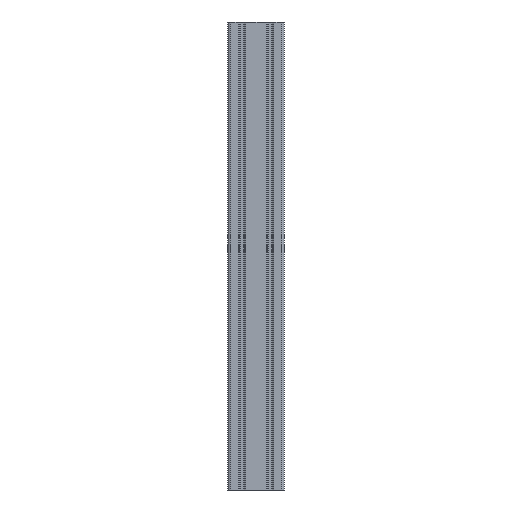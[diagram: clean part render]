
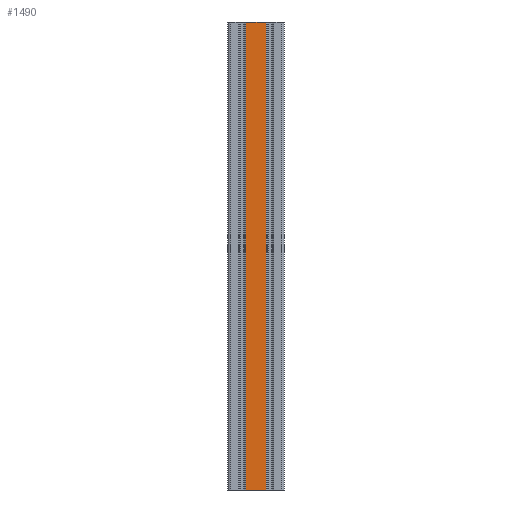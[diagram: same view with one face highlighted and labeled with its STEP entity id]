
A CAD part, front view. The second image highlights one B-rep face of the part: STEP entity #1490.
In plain terms, the highlighted planar face has unit normal (0, -1, 0).
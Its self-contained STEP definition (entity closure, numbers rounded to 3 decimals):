
#346 = VERTEX_POINT ( 'NONE', #5575 ) ;
#375 = VERTEX_POINT ( 'NONE', #5067 ) ;
#417 = ORIENTED_EDGE ( 'NONE', *, *, #4424, .F. ) ;
#420 = LINE ( 'NONE', #2090, #5658 ) ;
#614 = DIRECTION ( 'NONE',  ( 0., 0., 1. ) ) ;
#623 = CARTESIAN_POINT ( 'NONE',  ( 10.9, -30., -250. ) ) ;
#836 = ORIENTED_EDGE ( 'NONE', *, *, #5829, .T. ) ;
#1132 = VECTOR ( 'NONE', #4162, 1000. ) ;
#1387 = LINE ( 'NONE', #4474, #6226 ) ;
#1416 = VERTEX_POINT ( 'NONE', #5315 ) ;
#1490 = ADVANCED_FACE ( 'NONE', ( #3061 ), #3771, .T. ) ;
#2069 = LINE ( 'NONE', #3411, #5967 ) ;
#2090 = CARTESIAN_POINT ( 'NONE',  ( -10.9, -30., -250. ) ) ;
#2421 = EDGE_LOOP ( 'NONE', ( #4456, #836, #6509, #417 ) ) ;
#3061 = FACE_OUTER_BOUND ( 'NONE', #2421, .T. ) ;
#3120 = EDGE_CURVE ( 'NONE', #346, #375, #1387, .T. ) ;
#3184 = LINE ( 'NONE', #4136, #1132 ) ;
#3402 = DIRECTION ( 'NONE',  ( 0., -1., 0. ) ) ;
#3411 = CARTESIAN_POINT ( 'NONE',  ( 10.9, -30., -250. ) ) ;
#3771 = PLANE ( 'NONE',  #5082 ) ;
#3895 = DIRECTION ( 'NONE',  ( 1., 0., 0. ) ) ;
#4136 = CARTESIAN_POINT ( 'NONE',  ( -30., -30., -250. ) ) ;
#4162 = DIRECTION ( 'NONE',  ( -1., 0., 0. ) ) ;
#4267 = VERTEX_POINT ( 'NONE', #623 ) ;
#4424 = EDGE_CURVE ( 'NONE', #1416, #346, #420, .T. ) ;
#4426 = DIRECTION ( 'NONE',  ( 1., 0., 0. ) ) ;
#4451 = EDGE_CURVE ( 'NONE', #4267, #1416, #3184, .T. ) ;
#4456 = ORIENTED_EDGE ( 'NONE', *, *, #4451, .F. ) ;
#4474 = CARTESIAN_POINT ( 'NONE',  ( -30., -30., 250. ) ) ;
#5067 = CARTESIAN_POINT ( 'NONE',  ( 10.9, -30., 250. ) ) ;
#5082 = AXIS2_PLACEMENT_3D ( 'NONE', #5857, #3402, #3895 ) ;
#5315 = CARTESIAN_POINT ( 'NONE',  ( -10.9, -30., -250. ) ) ;
#5575 = CARTESIAN_POINT ( 'NONE',  ( -10.9, -30., 250. ) ) ;
#5658 = VECTOR ( 'NONE', #614, 1000. ) ;
#5829 = EDGE_CURVE ( 'NONE', #4267, #375, #2069, .T. ) ;
#5857 = CARTESIAN_POINT ( 'NONE',  ( -30., -30., -334.853 ) ) ;
#5866 = DIRECTION ( 'NONE',  ( 0., 0., 1. ) ) ;
#5967 = VECTOR ( 'NONE', #5866, 1000. ) ;
#6226 = VECTOR ( 'NONE', #4426, 1000. ) ;
#6509 = ORIENTED_EDGE ( 'NONE', *, *, #3120, .F. ) ;
